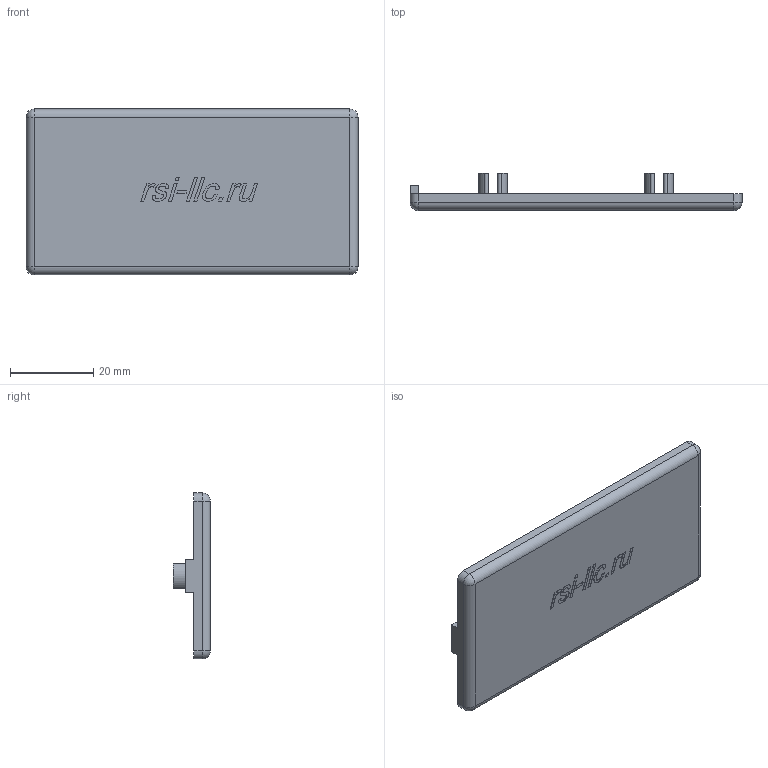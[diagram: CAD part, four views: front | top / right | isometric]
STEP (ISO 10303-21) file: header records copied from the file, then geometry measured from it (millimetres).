
FILE_DESCRIPTION (( 'STEP AP214' ), '1' );
FILE_NAME ('4009.STEP', '2020-10-20T12:40:49', ( '' ), ( '' ), 'SwSTEP 2.0', 'SolidWorks 2018', '' );
FILE_SCHEMA (( 'AUTOMOTIVE_DESIGN' ));
Length unit declared in the file: millimetre
Products named in the file (1): 4009
Bounding box: 80 x 9.1 x 40 mm (x, y, z)
Volume: 7359.4 mm3; surface area: 7989 mm2
Topology: 1 solids, 1 shells, 176 faces, 445 edges, 282 vertices
Faces by surface type: plane 80, cylinder 36, bspline 32, torus 24, sphere 4
Entity records: 8045 total; most frequent: CARTESIAN_POINT 2884, ORIENTED_EDGE 882, DIRECTION 787, EDGE_CURVE 441, VERTEX_POINT 282, AXIS2_PLACEMENT_3D 265, VECTOR 257, LINE 257
